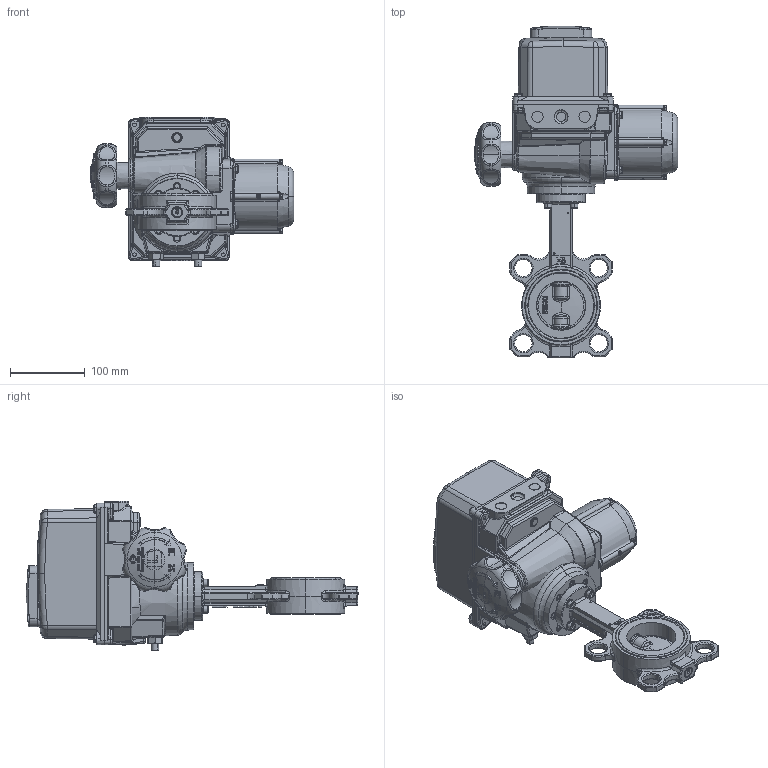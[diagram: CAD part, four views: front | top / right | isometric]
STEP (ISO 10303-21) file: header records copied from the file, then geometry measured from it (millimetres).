
FILE_DESCRIPTION (( 'STEP AP203' ), '1' );
FILE_NAME ('VPI-B24 DN65.step', '2016-09-29T14:57:01', ( 'TECOFI' ), ( '' ), 'SwSTEP 2.0', 'SolidWorks 2014', '' );
FILE_SCHEMA (( 'CONFIG_CONTROL_DESIGN' ));
Products named in the file (1): VPI-B24 DN65
Bounding box: 272.5 x 444.8 x 199.8 mm (x, y, z)
Volume: 4986870 mm3; surface area: 323516.7 mm2
Topology: 14 solids, 14 shells, 3166 faces, 8076 edges, 5059 vertices
Faces by surface type: plane 1398, bspline 818, cylinder 576, cone 141, torus 125, sphere 108
Entity records: 138467 total; most frequent: CARTESIAN_POINT 68235, ORIENTED_EDGE 16002, DIRECTION 12694, EDGE_CURVE 8001, VERTEX_POINT 5059, AXIS2_PLACEMENT_3D 4611, LINE 3472, VECTOR 3472
